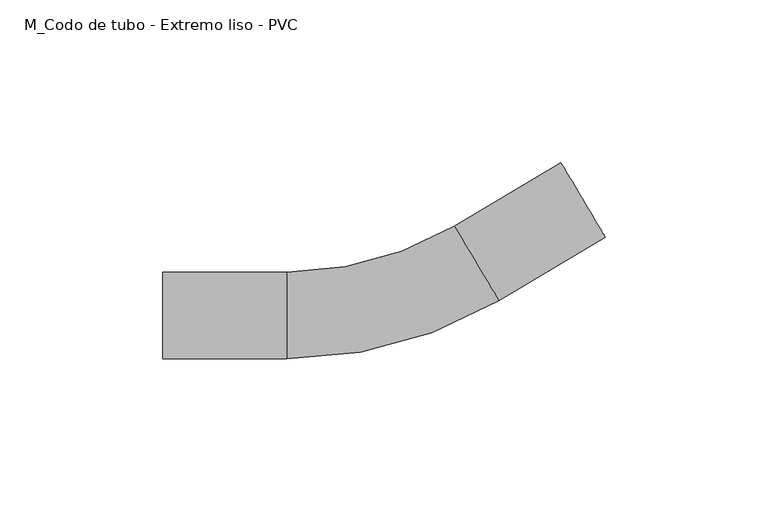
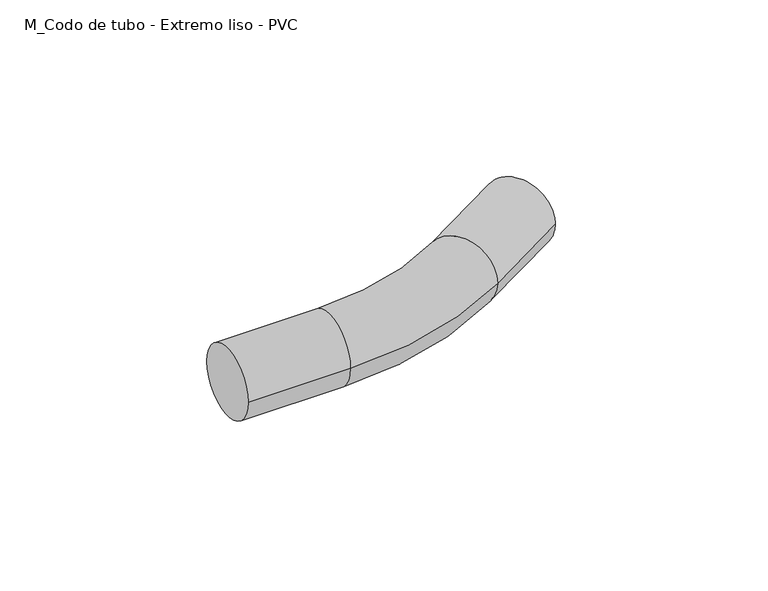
"""IFC4 building model written with IfcOpenShell, lengths in millimetres: cable carrier fitting geometry, M_Codo de tubo - Extremo liso - PVC : CODO ILUMINACION."""

from ifc_helpers import new_model, si_unit, point, frame, origin, place, context, project, spatial, circle_curve, ellipse_curve, trimmed, source, transform, mapped, element, save
from ifc_brep_helpers import plane_surface, cylinder_surface, revolved_surface, advanced_brep


def m_codo_de_tubo_extremo_liso_pvc_ba9b4636(model_context):
    return source(origin(), model_context, "Body", "AdvancedBrep", [
        advanced_brep(
        [(-69.488389, -13.335, 0.0), (-69.488389, 13.335, 0.0), (-31.388389, -13.335, 0.0), (-31.388389, 13.335, 0.0), (20.1758251, 27.4952591, 0.0), (33.7965609, 4.5657049, 0.0), (66.5530669, 24.0238989, 0.0), (52.9323311, 46.9534531, 0.0)],
        [
            (0, 1, circle_curve(frame((-69.488389, 0.0, 0.0), z_axis=(-1.0, 0.0, 0.0), x_axis=(0.0, 1.0, 0.0)), 13.335)),
            (1, 0, circle_curve(frame((-69.488389, 0.0, 0.0), z_axis=(-1.0, 0.0, 0.0), x_axis=(0.0, 1.0, 0.0)), 13.335)),
            (0, 2),
            (2, 3, circle_curve(frame((-31.388389, 0.0, 0.0), z_axis=(-1.0, 0.0, 0.0), x_axis=(0.0, 1.0, 0.0)), 13.335)),
            (3, 1),
            (3, 2, circle_curve(frame((-31.388389, 0.0, 0.0), z_axis=(-1.0, 0.0, 0.0), x_axis=(0.0, 1.0, 0.0)), 13.335)),
            (4, 3, circle_curve(frame((-31.388389, 114.3, 0.0), z_axis=(0.0, 0.0, -1.0), x_axis=(0.0, -1.0, 0.0)), 100.965)),
            (2, 5, circle_curve(frame((-31.388389, 114.3, 0.0), z_axis=(0.0, 0.0, 1.0), x_axis=(0.0, -1.0, 0.0)), 127.635)),
            (5, 4, circle_curve(frame((26.986193, 16.030482, 0.0), z_axis=(-0.8597508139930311, -0.5107137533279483, 0.0), x_axis=(-0.5107137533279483, 0.8597508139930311, 0.0)), 13.335)),
            (4, 5, circle_curve(frame((26.986193, 16.030482, 0.0), z_axis=(-0.8597508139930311, -0.5107137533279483, 0.0), x_axis=(-0.5107137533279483, 0.8597508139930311, 0.0)), 13.335)),
            (6, 7, circle_curve(frame((59.742699, 35.488676, 0.0), z_axis=(0.8597508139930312, 0.5107137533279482, 0.0), x_axis=(-0.5107137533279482, 0.8597508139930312, 0.0)), 13.335)),
            (7, 6, circle_curve(frame((59.742699, 35.488676, 0.0), z_axis=(0.8597508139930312, 0.5107137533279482, 0.0), x_axis=(-0.5107137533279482, 0.8597508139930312, 0.0)), 13.335)),
            (5, 6),
            (7, 4),
        ],
        [
            plane_surface(frame((-69.488389, 0.0, 0.0), z_axis=(-1.0, 0.0, 0.0), x_axis=(0.0, 0.0, 1.0))),
            cylinder_surface(frame((-69.488389, 0.0, 0.0), z_axis=(-1.0, 0.0, 0.0), x_axis=(0.0, 1.0, 0.0)), 13.335),
            revolved_surface(trimmed(ellipse_curve(frame((-31.388389, 0.0, 0.0), z_axis=(-1.0, 0.0, 0.0), x_axis=(0.0, 1.0, 0.0)), 13.335, 13.335), [point((-31.388389, -13.335, 0.0))], [point((-31.388389, 13.335, 0.0))], True, "CARTESIAN"), (-31.388389, 114.3, 0.0), (0.0, 0.0, 1.0)),
            revolved_surface(trimmed(ellipse_curve(frame((-31.388389, 0.0, 0.0), z_axis=(-1.0, 0.0, 0.0), x_axis=(0.0, 1.0, 0.0)), 13.335, 13.335), [point((-31.388389, 13.335, 0.0))], [point((-31.388389, -13.335, 0.0))], True, "CARTESIAN"), (-31.388389, 114.3, 0.0), (0.0, 0.0, 1.0)),
            plane_surface(frame((59.742699, 35.488676, 0.0), z_axis=(0.8597508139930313, 0.5107137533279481, 0.0), x_axis=(0.0, 0.0, 1.0))),
            cylinder_surface(frame((26.986193, 16.030482, 0.0), z_axis=(-0.8597508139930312, -0.5107137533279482, 0.0), x_axis=(-0.5107137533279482, 0.8597508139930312, 0.0)), 13.335),
        ],
        [
            (0, [[1, 2]]),
            (1, [[-1, 3, 4, 5]]),
            (1, [[-2, -5, 6, -3]]),
            (2, [[7, -4, 8, 9]]),
            (3, [[-8, -6, -7, 10]]),
            (4, [[11, 12]]),
            (5, [[-9, 13, -12, 14]]),
            (5, [[-10, -14, -11, -13]]),
        ],
    ),
    ])


if __name__ == "__main__":
    model = new_model("IFC4")
    model_context = context("Model", 3, world=origin())
    ifc_project = project(units=[si_unit("LENGTHUNIT", "METRE", prefix="MILLI")], contexts=[model_context])
    site = spatial("IfcSite", under=ifc_project)
    building = spatial("IfcBuilding", under=site)
    placement = place(None, origin())
    m_codo_de_tubo_extremo_liso_pvc_shape = m_codo_de_tubo_extremo_liso_pvc_ba9b4636(model_context)
    element("IfcCableCarrierFitting", 1, ObjectType="M_Codo de tubo - Extremo liso - PVC : CODO ILUMINACION", at=placement, inside=building, context=model_context, shape_type="MappedRepresentation", body=[
        mapped(m_codo_de_tubo_extremo_liso_pvc_shape, transform((0.0, 0.0, 0.0), x_axis=(1.0, 0.0, 0.0), y_axis=(0.0, 1.0, 0.0), z_axis=(0.0, 0.0, 1.0))),
    ])
    save(model, "model.ifc")
